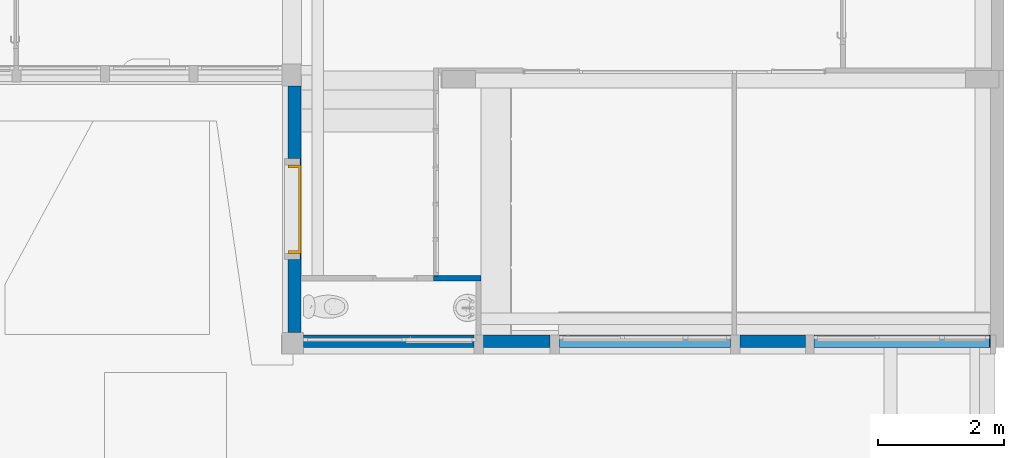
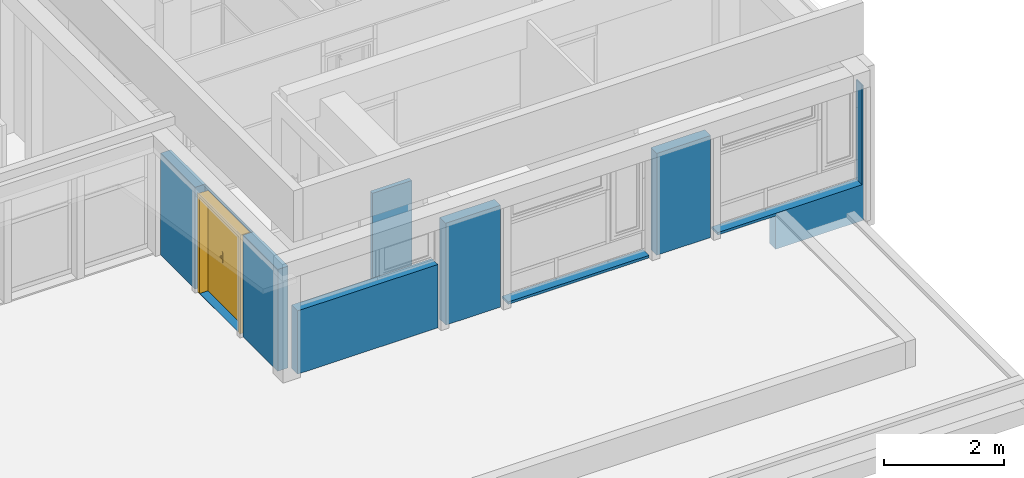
# One storey, part 31 of 49: 3 walls, 1 door, 3 openings.
"""IFC4 building model written with IfcOpenShell, lengths in metres."""

from ifc_helpers import new_model, entity, si_unit, converted_unit, derived_unit, direction, frame, origin, place, context, subcontext, project, spatial, indexed_curve, outline, extrude, polygons, source, transform, mapped, material, material_list, layer, layer_set, constituent, constituent_set, type_object, type_shapes, element, fill, save


model = new_model("IFC4")

# Units and contexts
model_context = context("Model", 3, precision=1e-05, world=origin(), true_north=direction((6.12303176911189e-17, 1.0)))
body_context = subcontext(model_context, "Body", "Model", "MODEL_VIEW")
ifc_project = project(units=[si_unit("LENGTHUNIT", "METRE"), si_unit("AREAUNIT", "SQUARE_METRE"), si_unit("VOLUMEUNIT", "CUBIC_METRE"), converted_unit("PLANEANGLEUNIT", "DEGREE", entity("IfcRatioMeasure", 0.0174532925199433), si_unit("PLANEANGLEUNIT", "RADIAN"), dimensions=[0, 0, 0, 0, 0, 0, 0]), si_unit("MASSUNIT", "GRAM", prefix="KILO"), derived_unit("MASSDENSITYUNIT", [(si_unit("MASSUNIT", "GRAM", prefix="KILO"), 1), (si_unit("LENGTHUNIT", "METRE"), -3)]), derived_unit("MOMENTOFINERTIAUNIT", [(si_unit("LENGTHUNIT", "METRE"), 4)]), si_unit("TIMEUNIT", "SECOND"), si_unit("FREQUENCYUNIT", "HERTZ"), si_unit("THERMODYNAMICTEMPERATUREUNIT", "DEGREE_CELSIUS"), derived_unit("THERMALTRANSMITTANCEUNIT", [(si_unit("MASSUNIT", "GRAM", prefix="KILO"), 1), (si_unit("THERMODYNAMICTEMPERATUREUNIT", "KELVIN"), -1), (si_unit("TIMEUNIT", "SECOND"), -3)]), derived_unit("VOLUMETRICFLOWRATEUNIT", [(si_unit("LENGTHUNIT", "METRE"), 3), (si_unit("TIMEUNIT", "SECOND"), -1)]), si_unit("ELECTRICCURRENTUNIT", "AMPERE"), si_unit("ELECTRICVOLTAGEUNIT", "VOLT"), si_unit("POWERUNIT", "WATT"), si_unit("FORCEUNIT", "NEWTON", prefix="KILO"), si_unit("ILLUMINANCEUNIT", "LUX"), si_unit("LUMINOUSFLUXUNIT", "LUMEN"), si_unit("LUMINOUSINTENSITYUNIT", "CANDELA"), derived_unit("USERDEFINED", [(si_unit("MASSUNIT", "GRAM", prefix="KILO"), -1), (si_unit("LENGTHUNIT", "METRE"), -2), (si_unit("TIMEUNIT", "SECOND"), 3), (si_unit("LUMINOUSFLUXUNIT", "LUMEN"), 1)]), derived_unit("LINEARVELOCITYUNIT", [(si_unit("LENGTHUNIT", "METRE"), 1), (si_unit("TIMEUNIT", "SECOND"), -1)]), si_unit("PRESSUREUNIT", "PASCAL"), derived_unit("USERDEFINED", [(si_unit("LENGTHUNIT", "METRE"), -2), (si_unit("MASSUNIT", "GRAM", prefix="KILO"), 1), (si_unit("TIMEUNIT", "SECOND"), -2)]), derived_unit("LINEARFORCEUNIT", [(si_unit("MASSUNIT", "GRAM", prefix="KILO"), 1), (si_unit("LENGTHUNIT", "METRE"), 1), (si_unit("TIMEUNIT", "SECOND"), -2), (si_unit("LENGTHUNIT", "METRE"), -1)]), derived_unit("PLANARFORCEUNIT", [(si_unit("MASSUNIT", "GRAM", prefix="KILO"), 1), (si_unit("LENGTHUNIT", "METRE"), 1), (si_unit("TIMEUNIT", "SECOND"), -2), (si_unit("LENGTHUNIT", "METRE"), -2)])], contexts=[model_context])

# Site, building, storey
site_placement = place(None, origin())
site = spatial("IfcSite", under=ifc_project, at=site_placement, Name="Default", CompositionType="ELEMENT")
building_placement = place(site_placement, origin())
building = spatial("IfcBuilding", under=site, at=building_placement, Name="HOTEL CONSULAIRE BOULOGNE SUR MER", CompositionType="ELEMENT")
storey_placement = place(building_placement, frame((0.0, 0.0, 6.81974152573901)))
storey = spatial("IfcBuildingStorey", under=building, at=storey_placement, Name="Niveau 2", CompositionType="ELEMENT", Elevation=6.81974152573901)

# Wall, opening
ifc_material_1 = material(Name="Mur par défaut", Category="Divers")
ifc_layer_1 = layer(ifc_material_1, 0.08, Name="Mur par défaut", Category="Divers")
ifc_layer_set_1 = layer_set([ifc_layer_1], Name="Mur de base:Générique - Int. 80")
wall_type_1 = type_object("IfcWallType", Name="Mur de base:Générique - Int. 80", PredefinedType="NOTDEFINED", material=ifc_layer_set_1)
wall_1_placement = place(storey_placement, frame((14.5219086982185, -22.9295936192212, -0.0349999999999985), z_axis=(0.0, 0.0, 1.0), x_axis=(-1.0, 0.0, 0.0)))
wall_1 = element("IfcWall", 1, at=wall_1_placement, inside=storey, type_object=wall_type_1, material=ifc_layer_set_1, Name="Mur de base:Générique - Int. 80", ObjectType="Mur de base:Générique - Int. 80", PredefinedType="NOTDEFINED", context=body_context, shape_type="Tessellation", body=[
    polygons([(0.0, -0.0399999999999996, -1.08286712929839e-15), (0.672859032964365, -0.0399999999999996, -1.08286712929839e-15), (0.752859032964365, -0.0399999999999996, -1.08286712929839e-15), (0.752859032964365, -0.0399999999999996, 0.479999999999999), (0.752859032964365, -0.0399999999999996, 0.629999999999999), (0.752859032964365, -0.0399999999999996, 0.664999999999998), (0.752859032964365, -0.0399999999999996, 0.784999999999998), (0.672859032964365, -0.0399999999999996, 0.784999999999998), (0.672859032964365, -0.0399999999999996, 2.67000000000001), (0.752859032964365, -0.0399999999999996, 2.67000000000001), (0.752859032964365, -0.0399999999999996, 2.99200000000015), (0.672859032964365, -0.0399999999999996, 2.99200000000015), (0.0, -0.0399999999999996, 2.99200000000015), (0.752859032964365, 0.0399999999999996, -1.08286712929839e-15), (0.0799999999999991, 0.0399999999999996, -1.08286712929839e-15), (0.0, 0.0399999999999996, -1.08286712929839e-15), (0.0, 0.0399999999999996, 0.479999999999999), (0.0, 0.0399999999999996, 0.629999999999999), (0.0, 0.0399999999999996, 2.99200000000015), (0.0799999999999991, 0.0399999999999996, 2.99200000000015), (0.752859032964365, 0.0399999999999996, 2.99200000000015), (0.752859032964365, 0.0399999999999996, 0.664999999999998), (0.752859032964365, -0.0379999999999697, 2.67000000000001), (0.752859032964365, -0.0379999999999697, 0.784999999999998), (0.672859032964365, -0.0379999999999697, 0.784999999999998), (0.672859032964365, -0.0379999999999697, 2.67000000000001)], [[[8, 9, 10, 11, 12, 13, 1, 2, 3, 4, 5, 6, 7]], [[24, 23, 26, 25]], [[22, 14, 15, 16, 17, 18, 19, 20, 21]], [[2, 1, 16, 15, 14, 3]], [[10, 9, 26, 23]], [[17, 16, 1, 13, 19, 18]], [[5, 4, 3, 14, 22, 21, 11, 10, 23, 24, 7, 6]], [[26, 9, 8, 25]], [[24, 25, 8, 7]], [[11, 21, 20, 19, 13, 12]]], closed=True),
])
opening_1_placement = place(wall_1_placement, frame((0.752859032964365, -0.0379999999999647, 0.784999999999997)))
element("IfcOpeningElement", 2, at=opening_1_placement, cuts=wall_1, Name="Mur de base:Générique - Int. 80", ObjectType="Opening", PredefinedType="OPENING", context=body_context, shape_type="SweptSolid", body=[
    extrude(outline(indexed_curve([(-0.0399999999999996, -0.942500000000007), (0.0399999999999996, -0.942500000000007), (0.0399999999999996, 0.942500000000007), (-0.0399999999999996, 0.942500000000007), (-0.0399999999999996, -0.942500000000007)], self_intersect=False)), frame((-0.0399999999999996, -0.600000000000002, 0.942500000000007), z_axis=(0.0, 1.0, 0.0), x_axis=(1.0, 0.0, 0.0)), (0.0, 0.0, 1.0), 0.599999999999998),
])

# Wall
ifc_layer_2 = layer(ifc_material_1, 0.2, Name="Mur par défaut", Category="Divers")
ifc_layer_set_2 = layer_set([ifc_layer_2], Name="Mur de base:Générique - Ext. 200 mm")
wall_type_2 = type_object("IfcWallType", Name="Mur de base:Générique - Ext. 200 mm", PredefinedType="NOTDEFINED", material=ifc_layer_set_2)
wall_2_placement = place(storey_placement, frame((11.7169086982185, -23.9271007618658, -0.0349999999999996)))
element("IfcWall", 3, at=wall_2_placement, inside=storey, type_object=wall_type_2, material=ifc_layer_set_2, Name="Mur de base:Générique - Ext. 200 mm", ObjectType="Mur de base:Générique - Ext. 200 mm", PredefinedType="NOTDEFINED", context=body_context, shape_type="Tessellation", body=[
    polygons([(3.05400688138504e-16, 0.0999999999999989, 1.96437110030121), (2.69513264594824, 0.0999999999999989, 1.96437110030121), (2.69513264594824, 0.0999999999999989, 0.677000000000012), (3.05400688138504e-16, 0.0999999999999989, 0.677000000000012), (2.69513264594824, -0.100000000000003, 1.96437110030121), (9.80577824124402e-16, -0.100000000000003, 1.96437110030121), (9.80577824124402e-16, -0.100000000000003, 0.677000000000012), (2.69513264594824, -0.100000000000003, 0.677000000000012)], [[[2, 3, 4, 1]], [[6, 7, 8, 5]], [[7, 6, 1, 4]], [[6, 5, 2, 1]], [[3, 2, 5, 8]], [[3, 8, 7, 4]]], closed=True),
    polygons([(9.18596651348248, 0.0999999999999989, 0.677000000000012), (9.18596651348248, -0.100000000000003, 0.677000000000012), (8.07113264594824, -0.100000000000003, 0.677000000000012), (8.07113264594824, 0.0999999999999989, 0.677000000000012), (10.8710272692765, -0.0999999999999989, 0.0), (10.8710272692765, -0.0999999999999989, 0.0349999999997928), (10.8710272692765, -0.0999999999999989, 2.747), (10.8481326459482, -0.0999999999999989, 2.747), (10.8481326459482, -0.0999999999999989, 0.728999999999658), (8.07113264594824, -0.100000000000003, 0.728999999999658), (9.18596651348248, -0.100000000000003, 0.177000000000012), (9.18596651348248, -0.100000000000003, 0.0), (10.8710272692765, 0.100000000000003, 2.747), (10.8710272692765, 0.100000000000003, 0.0), (10.8460272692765, 0.100000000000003, 0.0), (9.18596651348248, 0.0999999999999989, 0.0), (8.07113264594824, 0.0999999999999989, 0.728999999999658), (10.8460272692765, 0.100000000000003, 0.728999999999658), (10.8481326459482, 0.100000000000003, 0.728999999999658), (10.8481326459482, 0.100000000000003, 2.747), (10.8710272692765, 0.0, 0.0)], [[[1, 2, 3, 4]], [[21, 5, 12, 16, 15, 14]], [[2, 11, 12, 5, 6, 7, 8, 9, 10, 3]], [[14, 15, 16, 1, 4, 17, 18, 19, 20, 13]], [[8, 7, 13, 20]], [[10, 9, 19, 18, 17]], [[14, 13, 7, 6, 5, 21]], [[3, 10, 17, 4]], [[9, 8, 20, 19]], [[1, 16, 12, 11, 2]]], closed=True),
    polygons([(2.84513264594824, 0.0999999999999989, 2.747), (3.89513264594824, 0.0999999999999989, 2.747), (3.89513264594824, 0.0999999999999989, 0.677000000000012), (2.84513264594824, 0.0999999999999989, 0.677000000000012), (3.89513264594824, -0.100000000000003, 2.747), (2.84513264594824, -0.100000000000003, 2.747), (2.84513264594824, -0.100000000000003, 0.677000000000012), (3.89513264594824, -0.100000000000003, 0.677000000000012)], [[[2, 3, 4, 1]], [[6, 7, 8, 5]], [[6, 5, 2, 1]], [[3, 8, 7, 4]], [[4, 7, 6, 1]], [[8, 3, 2, 5]]], closed=True),
    polygons([(6.75013264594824, -0.100000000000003, 0.677000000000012), (4.04513264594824, -0.100000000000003, 0.677000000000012), (4.04513264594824, 0.0999999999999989, 0.677000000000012), (6.75013264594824, 0.0999999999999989, 0.677000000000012), (6.75013264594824, -0.100000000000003, 0.728999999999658), (4.04513264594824, -0.100000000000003, 0.728999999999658), (4.04513264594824, 0.0999999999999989, 0.728999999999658), (6.75013264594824, 0.0999999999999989, 0.728999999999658)], [[[4, 1, 2, 3]], [[6, 2, 1, 5]], [[8, 4, 3, 7]], [[2, 6, 7, 3]], [[4, 8, 5, 1]], [[6, 5, 8, 7]]], closed=True),
    polygons([(7.93713264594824, -0.100000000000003, 2.747), (6.90013264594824, -0.0999999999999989, 2.747), (6.90013264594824, -0.0999999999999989, 0.677000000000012), (7.93713264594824, -0.100000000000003, 0.677000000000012), (6.90013264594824, 0.100000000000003, 2.747), (7.93713264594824, 0.0999999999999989, 2.747), (7.93713264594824, 0.0999999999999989, 0.677000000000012), (6.90013264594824, 0.100000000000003, 0.677000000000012)], [[[2, 3, 4, 1]], [[6, 7, 8, 5]], [[4, 3, 8, 7]], [[2, 1, 6, 5]], [[4, 7, 6, 1]], [[8, 3, 2, 5]]], closed=True),
])

# Wall, openings, door
wall_3_placement = place(storey_placement, frame((11.5719435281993, -23.788909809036, 0.642000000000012), z_axis=(0.0, 0.0, 1.0), x_axis=(0.0, 1.0, 0.0)))
wall_3 = element("IfcWall", 4, at=wall_3_placement, inside=storey, type_object=wall_type_2, material=ifc_layer_set_2, Name="Mur de base:Générique - Ext. 200 mm", ObjectType="Mur de base:Générique - Ext. 200 mm", PredefinedType="NOTDEFINED", context=body_context, shape_type="Tessellation", body=[
    polygons([(-4.33146851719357e-15, 0.0999999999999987, 2.06999999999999), (1.15221306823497, 0.0999999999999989, 2.06999999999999), (1.15221306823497, 0.0999999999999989, 0.0), (-4.33146851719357e-15, 0.0999999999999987, 0.0), (1.25121306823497, 0.0999999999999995, 0.00337931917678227), (2.651213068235, 0.099999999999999, 0.00337931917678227), (2.651213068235, 0.099999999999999, 0.0), (1.25121306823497, 0.0999999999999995, 0.0), (3.901, -0.1, 2.06999999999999), (0.899316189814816, -0.1, 2.06999999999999), (0.819316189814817, -0.100000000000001, 2.06999999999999), (0.0, -0.100000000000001, 2.06999999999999), (0.0, -0.100000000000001, 0.0), (3.901, -0.1, 0.0), (2.65121306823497, -0.100000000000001, 2.0033793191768), (2.65121306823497, -0.100000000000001, 0.00337931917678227), (1.25121306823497, -0.100000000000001, 0.00337931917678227), (1.25121306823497, -0.100000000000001, 2.0033793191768), (2.750213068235, 0.0999999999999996, 2.06999999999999), (3.901, 0.0999999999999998, 2.06999999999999), (3.901, 0.0999999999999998, 0.0), (2.750213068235, 0.0999999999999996, 0.0), (2.750213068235, -0.0905913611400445, 2.06999999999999), (2.65121306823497, -0.0905913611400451, 2.06999999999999), (1.25121306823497, -0.0905913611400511, 2.06999999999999), (1.15221306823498, -0.0905913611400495, 2.06999999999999), (2.750213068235, -0.0905913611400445, 0.0), (2.65121306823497, -0.0905913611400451, 0.0), (2.65121306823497, -0.0905913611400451, 0.00337931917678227), (2.651213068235, -0.0905913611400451, 2.0033793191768), (1.25121306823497, -0.0905913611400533, 2.0033793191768), (1.25121306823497, -0.0905913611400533, 0.00337931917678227), (1.25121306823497, -0.0905913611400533, 0.0), (1.15221306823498, -0.0905913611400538, 0.0)], [[[2, 3, 4, 1]], [[6, 7, 8, 5]], [[20, 21, 22, 19]], [[25, 24, 23, 27, 28, 29, 30, 31, 32, 33, 34, 26]], [[13, 14, 9, 10, 11, 12], [17, 18, 15, 16]], [[9, 14, 21, 20]], [[7, 6, 29, 28]], [[3, 2, 26, 34]], [[32, 31, 18, 17]], [[24, 25, 26, 2, 1, 12, 11, 10, 9, 20, 19, 23]], [[6, 5, 32, 17, 16, 29]], [[13, 12, 1, 4]], [[27, 23, 19, 22]], [[33, 32, 5, 8]], [[30, 29, 16, 15]], [[31, 30, 15, 18]], [[4, 3, 34, 33, 8, 7, 28, 27, 22, 21, 14, 13]]], closed=True),
])
opening_2_placement = place(storey_placement, frame((11.5719435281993, -23.788909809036, 0.642000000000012), z_axis=(0.0, 0.0, 1.0), x_axis=(0.0, 1.0, 0.0)))
element("IfcOpeningElement", 5, at=opening_2_placement, cuts=wall_3, Name="Mur de base:Générique - Ext. 200 mm:1", ObjectType="Opening", PredefinedType="OPENING", context=body_context, shape_type="SweptSolid", body=[
    extrude(outline(indexed_curve([(-0.0952956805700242, -1.03499999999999), (0.0952956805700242, -1.03499999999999), (0.0952956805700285, 1.03499999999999), (-0.0952956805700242, 1.03499999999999), (-0.0952956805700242, -1.03499999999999)], self_intersect=False)), frame((1.15221306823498, 0.00470431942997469, 1.03499999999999), z_axis=(1.0, 0.0, 0.0), x_axis=(0.0, -1.0, 0.0)), (0.0, 0.0, 1.0), 0.0989999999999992),
])
opening_3_placement = place(wall_3_placement, frame((2.65121306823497, 0.099999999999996, 0.00337931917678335)))
opening_3 = element("IfcOpeningElement", 6, at=opening_3_placement, cuts=wall_3, Name="Int. Tierce:1.33X1.96:1", ObjectType="Opening", PredefinedType="OPENING", context=body_context, shape_type="SweptSolid", body=[
    extrude(outline(indexed_curve([(0.0, -2.86409359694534e-30), (2.00000000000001, -2.86409359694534e-30), (2.00000000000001, 1.4), (0.0, 1.4), (0.0, -2.86409359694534e-30)], self_intersect=False)), frame((0.0, 0.0, 0.0), z_axis=(0.0, -1.0, 0.0), x_axis=(0.0, 0.0, 1.0)), (0.0, 0.0, 1.0), 0.2),
])
ifc_material_2 = material(Name="PVC - Blanc", Category="Plastique")
ifc_constituent_1 = constituent(ifc_material_2, Name="PVC - Blanc", Category="Matériaux")
ifc_material_3 = material(Name="Verre", Category="Verre")
ifc_constituent_2 = constituent(ifc_material_3, Name="Verre", Category="Matériaux")
ifc_constituent_set = constituent_set(constituents=[ifc_constituent_1, ifc_constituent_2], Name="MaterialConstituentSet")
ifc_material_list = material_list([ifc_material_2, ifc_material_3, ifc_material_2, ifc_material_2])
door_type = type_object("IfcDoorType", Name="Int. Tierce:1.33X1.96", OperationType="DOUBLE_DOOR_SINGLE_SWING", PredefinedType="DOOR", material=ifc_material_list)
shared_shape = source(origin(), body_context, "Body", "Tessellation", [
    polygons([(0.895000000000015, -0.00500000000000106, 0.870000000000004), (0.895000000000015, -0.00500000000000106, 1.08), (0.885352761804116, -0.00500000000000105, 1.08399601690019), (0.875000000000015, -0.00500000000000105, 1.08535898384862), (0.864647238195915, -0.00500000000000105, 1.08399601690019), (0.855000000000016, -0.00500000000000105, 1.08), (0.855000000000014, -0.00500000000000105, 0.870000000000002), (0.864647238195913, -0.00500000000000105, 0.866003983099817), (0.875000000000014, -0.00500000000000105, 0.86464101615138), (0.885352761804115, -0.00500000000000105, 0.866003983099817), (0.895000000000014, -1.08286712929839e-15, 0.870000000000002), (0.885352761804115, -1.06594733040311e-15, 0.866003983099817), (0.875000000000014, -1.06594733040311e-15, 0.86464101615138), (0.864647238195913, -1.06594733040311e-15, 0.866003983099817), (0.855000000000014, -1.06594733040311e-15, 0.870000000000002), (0.855000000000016, -1.06594733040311e-15, 1.08), (0.864647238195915, -1.06594733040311e-15, 1.08399601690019), (0.875000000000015, -1.06594733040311e-15, 1.08535898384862), (0.885352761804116, -1.06594733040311e-15, 1.08399601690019), (0.895000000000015, -1.08286712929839e-15, 1.08)], [[[1, 2, 3, 4, 5, 6, 7, 8, 9, 10]], [[20, 11, 12, 13, 14, 15, 16, 17, 18, 19]], [[10, 12, 11, 1]], [[9, 13, 12, 10]], [[8, 14, 13, 9]], [[8, 7, 15, 14]], [[15, 7, 6, 16]], [[5, 17, 16, 6]], [[4, 18, 17, 5]], [[3, 19, 18, 4]], [[3, 2, 20, 19]], [[11, 20, 2, 1]]], closed=True),
    polygons([(0.855000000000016, 0.0399999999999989, 1.08), (0.855000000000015, 0.0399999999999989, 0.870000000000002), (0.864647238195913, 0.0399999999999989, 0.866003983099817), (0.875000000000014, 0.0399999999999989, 0.86464101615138), (0.885352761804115, 0.0399999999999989, 0.866003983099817), (0.895000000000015, 0.0399999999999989, 0.870000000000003), (0.895000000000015, 0.0399999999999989, 1.08), (0.885352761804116, 0.0399999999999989, 1.08399601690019), (0.875000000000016, 0.0399999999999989, 1.08535898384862), (0.864647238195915, 0.0399999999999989, 1.08399601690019), (0.855000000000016, 0.0449999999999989, 1.08), (0.864647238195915, 0.0449999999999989, 1.08399601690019), (0.875000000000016, 0.0449999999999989, 1.08535898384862), (0.885352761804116, 0.0449999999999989, 1.08399601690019), (0.895000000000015, 0.0449999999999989, 1.08), (0.895000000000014, 0.0449999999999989, 0.870000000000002), (0.885352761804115, 0.0449999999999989, 0.866003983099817), (0.875000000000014, 0.0449999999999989, 0.86464101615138), (0.864647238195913, 0.0449999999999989, 0.866003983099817), (0.855000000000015, 0.0449999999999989, 0.870000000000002)], [[[6, 7, 8, 9, 10, 1, 2, 3, 4, 5]], [[13, 14, 15, 16, 17, 18, 19, 20, 11, 12]], [[10, 12, 11, 1]], [[9, 13, 12, 10]], [[8, 14, 13, 9]], [[8, 7, 15, 14]], [[16, 15, 7, 6]], [[5, 17, 16, 6]], [[4, 18, 17, 5]], [[3, 19, 18, 4]], [[3, 2, 20, 19]], [[20, 2, 1, 11]]], closed=True),
    polygons([(0.881000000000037, -0.00500000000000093, 1.00699999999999), (0.881000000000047, -0.00500000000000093, 0.992999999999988), (0.877025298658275, -0.00500000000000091, 0.99221955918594), (0.872974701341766, -0.00500000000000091, 0.992219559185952), (0.868999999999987, -0.00500000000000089, 0.993000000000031), (0.868999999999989, -0.00500000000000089, 1.007), (0.872974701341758, -0.00500000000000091, 1.00778044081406), (0.877025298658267, -0.00500000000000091, 1.00778044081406), (0.868999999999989, -0.0276803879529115, 1.007), (0.872974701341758, -0.0293267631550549, 1.00778044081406), (0.877025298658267, -0.0310045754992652, 1.00778044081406), (0.881000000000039, -0.0326509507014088, 1.007), (0.868999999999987, -0.0276803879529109, 0.993000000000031), (0.881000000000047, -0.0326509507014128, 0.992999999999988), (0.877025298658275, -0.0310045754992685, 0.99221955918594), (0.872974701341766, -0.0293267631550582, 0.992219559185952), (0.85765222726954, -0.0390281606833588, 1.007), (0.859298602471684, -0.0430028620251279, 1.00778044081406), (0.860976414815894, -0.0470534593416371, 1.00778044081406), (0.862622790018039, -0.051028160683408, 1.007), (0.85765222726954, -0.0390281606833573, 0.993000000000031), (0.862622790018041, -0.0510281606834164, 0.992999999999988), (0.860976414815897, -0.0470534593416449, 0.99221955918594), (0.859298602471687, -0.0430028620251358, 0.992219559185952), (0.774981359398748, -0.0510281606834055, 1.007), (0.774981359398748, -0.0470534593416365, 1.00778044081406), (0.774981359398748, -0.0430028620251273, 1.00778044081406), (0.774981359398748, -0.0390281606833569, 1.00699999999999), (0.774981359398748, -0.0390281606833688, 0.993000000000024), (0.774981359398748, -0.0430028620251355, 0.992219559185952), (0.774981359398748, -0.0470534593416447, 0.99221955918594), (0.774981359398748, -0.0510281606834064, 0.992999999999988), (0.822692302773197, -0.051028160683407, 1.007), (0.817139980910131, -0.045028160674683, 1.0078786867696), (0.816316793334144, -0.039028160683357, 1.007), (0.822692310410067, -0.0510281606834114, 0.992999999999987), (0.817139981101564, -0.0450281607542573, 0.992121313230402), (0.816316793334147, -0.0390281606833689, 0.993000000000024)], [[[7, 8, 1, 2, 3, 4, 5, 6]], [[17, 21, 38, 29, 28, 35]], [[1, 8, 11, 12]], [[8, 7, 10, 18, 19, 11]], [[7, 6, 9, 10]], [[13, 9, 6, 5]], [[25, 26, 27, 28, 29, 30, 31, 32]], [[4, 16, 13, 5]], [[4, 3, 15, 23, 24, 16]], [[2, 14, 15, 3]], [[12, 14, 2, 1]], [[12, 11, 19, 20]], [[10, 9, 17, 18]], [[21, 17, 9, 13]], [[13, 16, 24, 21]], [[15, 14, 22, 23]], [[20, 22, 14, 12]], [[34, 26, 33]], [[33, 26, 25]], [[33, 20, 19]], [[18, 35, 34]], [[35, 18, 17]], [[28, 27, 35]], [[34, 27, 26]], [[34, 35, 27]], [[34, 33, 19]], [[18, 34, 19]], [[37, 30, 38]], [[31, 37, 36]], [[24, 38, 21]], [[30, 29, 38]], [[31, 36, 32]], [[36, 23, 22]], [[37, 23, 36]], [[37, 24, 23]], [[37, 38, 24]], [[30, 37, 31]], [[22, 20, 33, 25, 32, 36]]], closed=True),
    polygons([(0.868999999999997, 0.0449999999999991, 0.993000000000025), (0.872974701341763, 0.0449999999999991, 0.992219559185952), (0.877025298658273, 0.0449999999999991, 0.99221955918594), (0.881000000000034, 0.044999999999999, 0.992999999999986), (0.881000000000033, 0.044999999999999, 1.007), (0.877025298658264, 0.0449999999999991, 1.00778044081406), (0.872974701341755, 0.0449999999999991, 1.00778044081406), (0.868999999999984, 0.0449999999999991, 1.007), (0.868999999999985, 0.067485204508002, 1.007), (0.868999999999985, 0.0674852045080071, 0.993000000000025), (0.881000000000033, 0.0724557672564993, 1.007), (0.877025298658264, 0.070809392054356, 1.00778044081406), (0.872974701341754, 0.0691315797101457, 1.00778044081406), (0.881000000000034, 0.0724557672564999, 0.992999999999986), (0.872974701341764, 0.0691315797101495, 0.992219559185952), (0.877025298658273, 0.0708093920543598, 0.99221955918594), (0.857514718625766, 0.0789704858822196, 1.007), (0.857514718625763, 0.0789704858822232, 0.993000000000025), (0.862485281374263, 0.0909704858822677, 1.007), (0.86083890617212, 0.0869957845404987, 1.00778044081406), (0.85916109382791, 0.0829451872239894, 1.00778044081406), (0.862485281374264, 0.0909704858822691, 0.992999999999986), (0.859161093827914, 0.0829451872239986, 0.992219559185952), (0.860838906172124, 0.0869957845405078, 0.99221955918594), (0.774954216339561, 0.0789704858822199, 0.993000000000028), (0.774954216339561, 0.0789704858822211, 1.007), (0.774954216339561, 0.0829451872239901, 1.00778044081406), (0.774954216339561, 0.0869957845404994, 1.00778044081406), (0.774954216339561, 0.0909704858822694, 1.007), (0.774954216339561, 0.0909704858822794, 0.992999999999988), (0.774954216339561, 0.086995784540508, 0.99221955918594), (0.774954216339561, 0.0829451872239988, 0.992219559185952), (0.822554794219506, 0.0909704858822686, 1.007), (0.81705765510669, 0.0849704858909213, 1.0078786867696), (0.816234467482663, 0.0789704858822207, 1.007), (0.822554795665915, 0.0909704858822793, 0.992999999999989), (0.81705765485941, 0.0849704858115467, 0.992121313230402), (0.816234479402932, 0.0789704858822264, 0.993000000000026)], [[[2, 3, 4, 5, 6, 7, 8, 1]], [[18, 17, 35, 26, 25, 38]], [[9, 10, 1, 8]], [[27, 28, 29, 30, 31, 32, 25, 26]], [[7, 13, 9, 8]], [[7, 6, 12, 20, 21, 13]], [[5, 11, 12, 6]], [[11, 5, 4, 14]], [[4, 3, 16, 14]], [[3, 2, 15, 23, 24, 16]], [[2, 1, 10, 15]], [[17, 18, 10, 9]], [[9, 13, 21, 17]], [[11, 19, 20, 12]], [[22, 19, 11, 14]], [[14, 16, 24, 22]], [[15, 10, 18, 23]], [[34, 27, 35]], [[28, 34, 33]], [[21, 35, 17]], [[27, 26, 35]], [[28, 33, 29]], [[33, 20, 19]], [[34, 20, 33]], [[34, 21, 20]], [[34, 35, 21]], [[27, 34, 28]], [[19, 22, 36, 30, 29, 33]], [[37, 31, 36]], [[36, 31, 30]], [[36, 22, 24]], [[23, 38, 37]], [[38, 23, 18]], [[25, 32, 38]], [[37, 32, 31]], [[37, 38, 32]], [[37, 36, 24]], [[23, 37, 24]]], closed=True),
    polygons([(0.935000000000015, 0.0400000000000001, 1.965), (0.935000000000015, 0.0400000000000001, 0.0), (0.0350000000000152, 0.0400000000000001, 0.0), (0.0350000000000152, 0.0400000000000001, 1.965), (0.935000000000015, 6.76791955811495e-17, 1.965), (0.0350000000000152, 6.76791955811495e-17, 1.965), (0.0350000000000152, 6.76791955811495e-17, 0.0), (0.935000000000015, 6.76791955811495e-17, 0.0)], [[[4, 1, 2, 3]], [[5, 6, 7, 8]], [[5, 1, 4, 6]], [[7, 6, 4, 3]], [[7, 3, 2, 8]], [[5, 8, 2, 1]]], closed=True),
    polygons([(1.35358391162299e-16, 0.0, 0.0), (1.35358391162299e-16, 0.200000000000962, 0.0), (0.0500000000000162, 0.200000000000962, 0.0), (0.0500000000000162, 0.040000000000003, 0.0), (0.0350000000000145, 0.040000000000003, 0.0), (0.0350000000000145, 0.0, 0.0), (1.35358391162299e-16, 0.0, 2.00000000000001), (1.35358391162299e-16, 0.200000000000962, 2.00000000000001), (1.4, 0.200000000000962, 2.00000000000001), (1.4, 0.200000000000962, -4.03399441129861e-24), (1.34999999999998, 0.200000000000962, -4.03399441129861e-24), (1.34999999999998, 0.200000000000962, 1.95), (0.0500000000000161, 0.200000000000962, 1.95), (0.0500000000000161, 0.040000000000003, 1.95), (1.34999999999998, 0.040000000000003, 1.95), (1.34999999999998, 0.040000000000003, 1.3446624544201e-24), (1.36499999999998, 0.040000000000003, 1.40672403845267e-24), (1.36499999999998, 0.040000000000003, 1.965), (0.0350000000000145, 0.040000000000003, 1.965), (0.0350000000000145, 0.0, 1.965), (1.36499999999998, 0.0, 1.965), (1.36499999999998, 0.0, 0.0), (1.4, 0.0, 0.0), (1.4, 0.0, 2.00000000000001)], [[[5, 6, 1, 2, 3, 4]], [[11, 10, 23, 22, 17, 16]], [[14, 13, 12, 15]], [[20, 19, 18, 21]], [[2, 1, 7, 8]], [[15, 12, 11, 16]], [[21, 18, 17, 22]], [[3, 2, 8, 9, 10, 11, 12, 13]], [[4, 3, 13, 14]], [[6, 5, 19, 20]], [[9, 24, 23, 10]], [[16, 17, 18, 19, 5, 4, 14, 15]], [[22, 23, 24, 7, 1, 6, 20, 21]], [[8, 7, 24, 9]]], closed=True),
    polygons([(1.36500000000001, 0.0, 1.965), (1.36500000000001, 0.0400000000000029, 1.965), (0.935000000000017, 0.0400000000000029, 1.965), (0.935000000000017, 0.0, 1.965), (1.36500000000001, 0.0, 0.0), (0.935000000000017, 0.0, 0.0), (0.935000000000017, 0.0400000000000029, 0.0), (1.36500000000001, 0.0400000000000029, 0.0)], [[[4, 1, 2, 3]], [[7, 8, 5, 6]], [[2, 1, 5, 8]], [[3, 2, 8, 7]], [[4, 3, 7, 6]], [[1, 4, 6, 5]]], closed=True),
    polygons([(0.0150000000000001, 0.200000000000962, 0.0), (-0.0149999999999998, 0.200000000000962, 0.0), (-0.0149999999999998, 0.205000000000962, 0.0), (0.0150000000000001, 0.205000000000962, 0.0), (0.0150000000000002, 0.200000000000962, 1.98500000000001), (1.385, 0.200000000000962, 1.98500000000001), (1.385, 0.200000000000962, 5.96462059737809e-24), (1.415, 0.200000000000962, 5.47688322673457e-24), (1.415, 0.200000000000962, 2.01500000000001), (-0.0149999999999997, 0.200000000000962, 2.01500000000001), (-0.0149999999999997, 0.205000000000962, 2.01500000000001), (1.415, 0.205000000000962, 2.01500000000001), (1.415, 0.205000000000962, 1.17116051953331e-24), (1.385, 0.205000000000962, 4.02398534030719e-24), (1.385, 0.205000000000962, 1.98500000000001), (0.015, 0.205000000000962, 1.98500000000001)], [[[1, 2, 3, 4]], [[14, 13, 8, 7]], [[5, 16, 15, 6]], [[7, 8, 9, 10, 2, 1, 5, 6]], [[3, 2, 10, 11]], [[6, 15, 14, 7]], [[4, 3, 11, 12, 13, 14, 15, 16]], [[1, 4, 16, 5]], [[12, 9, 8, 13]], [[11, 10, 9, 12]]], closed=True),
    polygons([(1.385, -0.00500000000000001, 0.0), (1.385, 0.0, 0.0), (1.415, 0.0, 0.0), (1.415, -0.00500000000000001, 0.0), (0.0150000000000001, -0.00500000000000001, 0.0), (-0.0149999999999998, -0.00500000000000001, 0.0), (-0.0149999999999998, 0.0, 0.0), (0.0150000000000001, 0.0, 0.0), (0.0150000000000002, -0.00500000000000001, 1.98500000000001), (1.385, -0.00500000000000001, 1.98500000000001), (1.415, -0.00500000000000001, 2.01500000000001), (-0.0149999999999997, -0.00500000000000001, 2.01500000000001), (-0.0149999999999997, 0.0, 2.01500000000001), (1.415, 0.0, 2.01500000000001), (1.385, 0.0, 1.98500000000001), (0.015, 0.0, 1.98500000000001)], [[[2, 3, 4, 1]], [[5, 6, 7, 8]], [[9, 16, 15, 10]], [[1, 4, 11, 12, 6, 5, 9, 10]], [[7, 6, 12, 13]], [[10, 15, 2, 1]], [[8, 7, 13, 14, 3, 2, 15, 16]], [[5, 8, 16, 9]], [[14, 11, 4, 3]], [[13, 12, 11, 14]]], closed=True),
])
type_shapes(door_type, [shared_shape])
door_placement = place(opening_3_placement, frame((-1.4, -0.200000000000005, 0.0)))
door = element("IfcDoor", 7, at=door_placement, inside=storey, type_object=door_type, material=ifc_constituent_set, Name="Int. Tierce:1.33X1.96", ObjectType="Int. Tierce:1.33X1.96", OperationType="DOUBLE_DOOR_SINGLE_SWING", OverallHeight=2.00000000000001, OverallWidth=1.4, PredefinedType="DOOR", context=body_context, shape_type="MappedRepresentation", body=[
    mapped(shared_shape, transform((0.0, 0.0, 0.0), scale=1.0)),
])
fill(opening_3, door)

save(model, "model.ifc")
